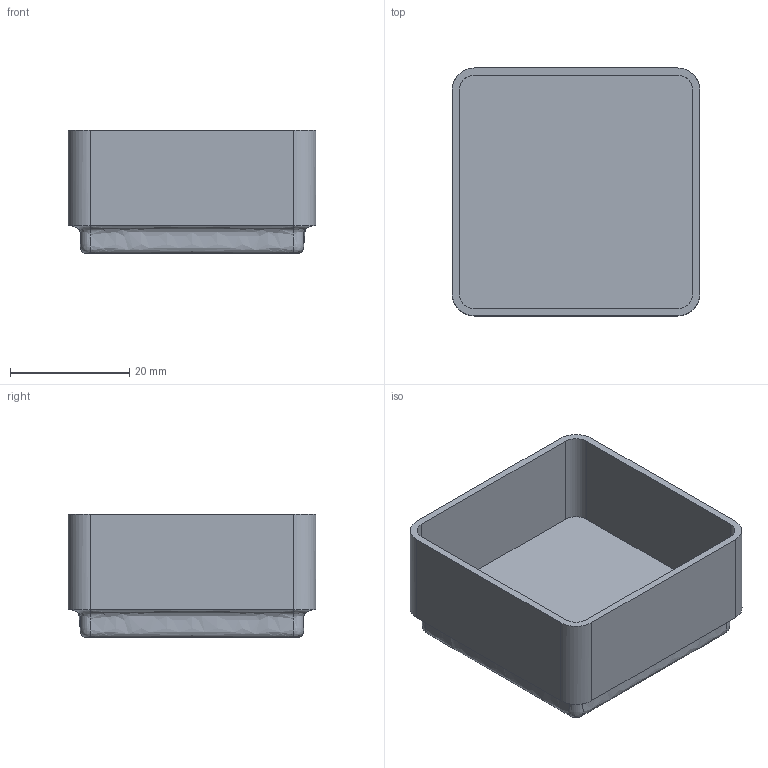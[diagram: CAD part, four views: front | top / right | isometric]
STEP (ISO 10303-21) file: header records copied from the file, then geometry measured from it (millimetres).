
FILE_DESCRIPTION(('Open CASCADE Model'),'2;1');
FILE_NAME('Open CASCADE Shape Model','2026-11-03T15:27:51',('Author'),( 'Open CASCADE'),'Open CASCADE STEP processor 8.0','build123d', 'Unknown');
FILE_SCHEMA(('AUTOMOTIVE_DESIGN { 1 0 10303 214 1 1 1 1 }'));
Length unit declared in the file: millimetre
Products named in the file (1): COMPOUND
Bounding box: 41.5 x 41.5 x 20.75 mm (x, y, z)
Volume: 9626.8 mm3; surface area: 8936.2 mm2
Topology: 1 solids, 1 shells, 27 faces, 64 edges, 40 vertices
Faces by surface type: plane 11, bspline 8, cylinder 8
Entity records: 2036 total; most frequent: CARTESIAN_POINT 848, DIRECTION 188, ORIENTED_EDGE 128, PCURVE 128, DEFINITIONAL_REPRESENTATION 128, LINE 120, VECTOR 120, EDGE_CURVE 64
